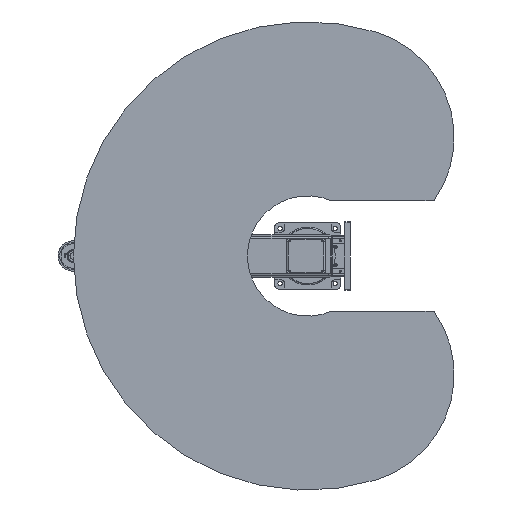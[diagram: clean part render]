
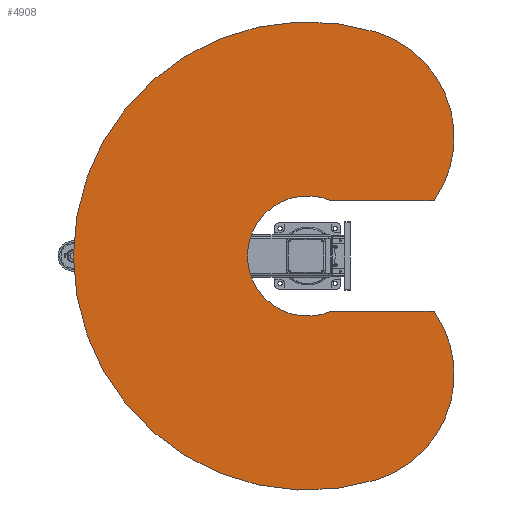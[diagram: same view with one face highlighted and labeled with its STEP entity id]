
A CAD part, front view. The second image highlights one B-rep face of the part: STEP entity #4908.
In plain terms, the highlighted planar face has unit normal (0, -1, 0).
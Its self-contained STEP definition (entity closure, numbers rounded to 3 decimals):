
#4908 = ADVANCED_FACE( '', ( #11733 ), #11734, .F. );
#11733 = FACE_OUTER_BOUND( '', #21127, .T. );
#11734 = PLANE( '', #21128 );
#21127 = EDGE_LOOP( '', ( #35961, #35962, #35963, #35964, #35965, #35966 ) );
#21128 = AXIS2_PLACEMENT_3D( '', #35967, #35968, #35969 );
#35961 = ORIENTED_EDGE( '', *, *, #51704, .F. );
#35962 = ORIENTED_EDGE( '', *, *, #53021, .F. );
#35963 = ORIENTED_EDGE( '', *, *, #53022, .T. );
#35964 = ORIENTED_EDGE( '', *, *, #53023, .F. );
#35965 = ORIENTED_EDGE( '', *, *, #49987, .F. );
#35966 = ORIENTED_EDGE( '', *, *, #53024, .F. );
#35967 = CARTESIAN_POINT( '', ( 430.337, 0., 131.567 ) );
#35968 = DIRECTION( '', ( 0., 1., 0. ) );
#35969 = DIRECTION( '', ( 0., 0., 1. ) );
#49987 = EDGE_CURVE( '', #59414, #59415, #59416, .T. );
#51704 = EDGE_CURVE( '', #62193, #62194, #62195, .T. );
#53021 = EDGE_CURVE( '', #64217, #62193, #64218, .T. );
#53022 = EDGE_CURVE( '', #64217, #64219, #64220, .T. );
#53023 = EDGE_CURVE( '', #59415, #64219, #64221, .T. );
#53024 = EDGE_CURVE( '', #62194, #59414, #64222, .T. );
#59414 = VERTEX_POINT( '', #73174 );
#59415 = VERTEX_POINT( '', #73175 );
#59416 = CIRCLE( '', #73176, 400. );
#62193 = VERTEX_POINT( '', #77966 );
#62194 = VERTEX_POINT( '', #77967 );
#62195 = CIRCLE( '', #77968, 400. );
#64217 = VERTEX_POINT( '', #81013 );
#64218 = LINE( '', #81014, #81015 );
#64219 = VERTEX_POINT( '', #81016 );
#64220 = CIRCLE( '', #81017, 218.3 );
#64221 = LINE( '', #81018, #81019 );
#64222 = CIRCLE( '', #81020, 850. );
#73174 = CARTESIAN_POINT( '', ( -812.859, 0., 248.516 ) );
#73175 = CARTESIAN_POINT( '', ( -200., 0., 458.591 ) );
#73176 = AXIS2_PLACEMENT_3D( '', #90304, #90305, #90306 );
#77966 = CARTESIAN_POINT( '', ( 200., 0., 458.591 ) );
#77967 = CARTESIAN_POINT( '', ( 812.859, 0., 248.516 ) );
#77968 = AXIS2_PLACEMENT_3D( '', #92402, #92403, #92404 );
#81013 = CARTESIAN_POINT( '', ( 200., 0., 87.492 ) );
#81014 = CARTESIAN_POINT( '', ( 200., 0., 87.492 ) );
#81015 = VECTOR( '', #94102, 1000. );
#81016 = CARTESIAN_POINT( '', ( -200., 0., 87.492 ) );
#81017 = AXIS2_PLACEMENT_3D( '', #94103, #94104, #94105 );
#81018 = CARTESIAN_POINT( '', ( -200., 0., 458.591 ) );
#81019 = VECTOR( '', #94106, 1000. );
#81020 = AXIS2_PLACEMENT_3D( '', #94107, #94108, #94109 );
#90304 = CARTESIAN_POINT( '', ( -430.337, 0., 131.567 ) );
#90305 = DIRECTION( '', ( 0., 1., 0. ) );
#90306 = DIRECTION( '', ( 1., 0., 0. ) );
#92402 = CARTESIAN_POINT( '', ( 430.337, 0., 131.567 ) );
#92403 = DIRECTION( '', ( 0., 1., 0. ) );
#92404 = DIRECTION( '', ( 1., 0., 0. ) );
#94102 = DIRECTION( '', ( 0., 0., 1. ) );
#94103 = CARTESIAN_POINT( '', ( 0., 0., 0. ) );
#94104 = DIRECTION( '', ( 0., 1., 0. ) );
#94105 = DIRECTION( '', ( 1., 0., 0. ) );
#94106 = DIRECTION( '', ( 0., 0., -1. ) );
#94107 = CARTESIAN_POINT( '', ( 0., 0., 0. ) );
#94108 = DIRECTION( '', ( 0., 1., 0. ) );
#94109 = DIRECTION( '', ( 1., 0., 0. ) );
